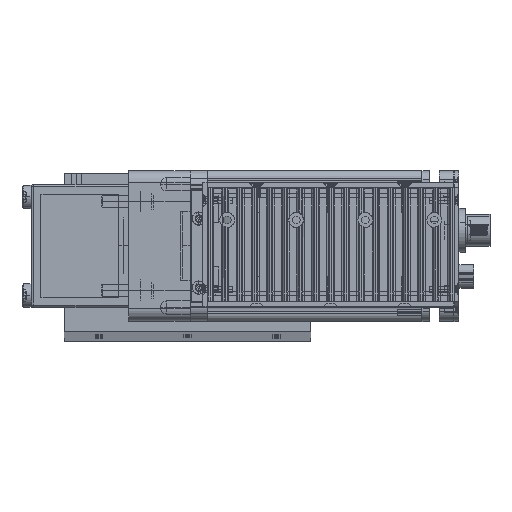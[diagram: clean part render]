
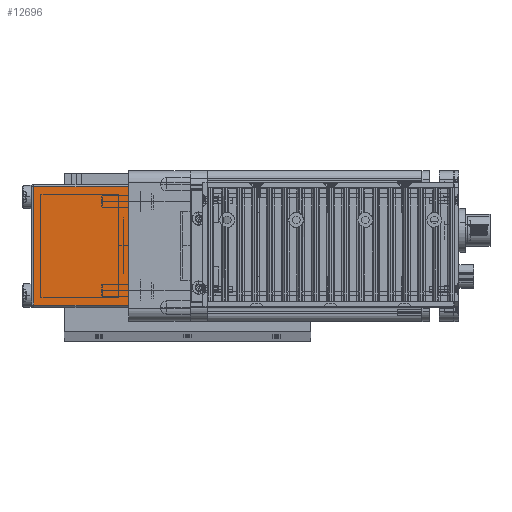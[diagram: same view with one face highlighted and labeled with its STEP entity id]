
A CAD part, top view. The second image highlights one B-rep face of the part: STEP entity #12696.
In plain terms, the highlighted planar face has unit normal (0, 0, 1) as drawn and (1, 0, 0) by its records, which use the part's own axes.
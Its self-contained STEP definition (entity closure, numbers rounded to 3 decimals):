
#3723 = EDGE_CURVE ( 'NONE', #3730, #12482, #45410, .T. ) ;
#3730 = VERTEX_POINT ( 'NONE', #45406 ) ;
#3765 = EDGE_CURVE ( 'NONE', #12503, #12426, #45480, .T. ) ;
#5803 = EDGE_LOOP ( 'NONE', ( #13123, #12611, #13124, #12668 ) ) ;
#6434 = EDGE_CURVE ( 'NONE', #12503, #12482, #46113, .T. ) ;
#12426 = VERTEX_POINT ( 'NONE', #47000 ) ;
#12482 = VERTEX_POINT ( 'NONE', #47077 ) ;
#12503 = VERTEX_POINT ( 'NONE', #47155 ) ;
#12611 = ORIENTED_EDGE ( 'NONE', *, *, #6434, .T. ) ;
#12659 = EDGE_CURVE ( 'NONE', #12426, #3730, #47531, .T. ) ;
#12668 = ORIENTED_EDGE ( 'NONE', *, *, #12659, .F. ) ;
#12696 = ADVANCED_FACE ( 'NONE', ( #47622 ), #47605, .F. ) ;
#13123 = ORIENTED_EDGE ( 'NONE', *, *, #3765, .F. ) ;
#13124 = ORIENTED_EDGE ( 'NONE', *, *, #3723, .F. ) ;
#45406 = CARTESIAN_POINT ( 'NONE',  ( 62., 24., 38.5 ) ) ;
#45407 = DIRECTION ( 'NONE',  ( 0., 0., -1. ) ) ;
#45408 = VECTOR ( 'NONE', #45407, 1000. ) ;
#45409 = CARTESIAN_POINT ( 'NONE',  ( 62., 24., 39.5 ) ) ;
#45410 = LINE ( 'NONE', #45409, #45408 ) ;
#45473 = DIRECTION ( 'NONE',  ( 0., 0., 1. ) ) ;
#45474 = VECTOR ( 'NONE', #45473, 1000. ) ;
#45475 = CARTESIAN_POINT ( 'NONE',  ( 62., -24., 39.5 ) ) ;
#45480 = LINE ( 'NONE', #45475, #45474 ) ;
#46109 = DIRECTION ( 'NONE',  ( 0., 1., 0. ) ) ;
#46110 = VECTOR ( 'NONE', #46109, 1000. ) ;
#46111 = CARTESIAN_POINT ( 'NONE',  ( 62., -25., 0. ) ) ;
#46113 = LINE ( 'NONE', #46111, #46110 ) ;
#47000 = CARTESIAN_POINT ( 'NONE',  ( 62., -24., 38.5 ) ) ;
#47077 = CARTESIAN_POINT ( 'NONE',  ( 62., 24., 0. ) ) ;
#47155 = CARTESIAN_POINT ( 'NONE',  ( 62., -24., 0. ) ) ;
#47530 = CARTESIAN_POINT ( 'NONE',  ( 62., -25., 38.5 ) ) ;
#47531 = LINE ( 'NONE', #47530, #47583 ) ;
#47582 = DIRECTION ( 'NONE',  ( 0., 1., 0. ) ) ;
#47583 = VECTOR ( 'NONE', #47582, 1000. ) ;
#47605 = PLANE ( 'NONE',  #47623 ) ;
#47622 = FACE_OUTER_BOUND ( 'NONE', #5803, .T. ) ;
#47623 = AXIS2_PLACEMENT_3D ( 'NONE', #47687, #47686, #47685 ) ;
#47685 = DIRECTION ( 'NONE',  ( 0., -1., 0. ) ) ;
#47686 = DIRECTION ( 'NONE',  ( -1., 0., 0. ) ) ;
#47687 = CARTESIAN_POINT ( 'NONE',  ( 62., 25., 39.5 ) ) ;
